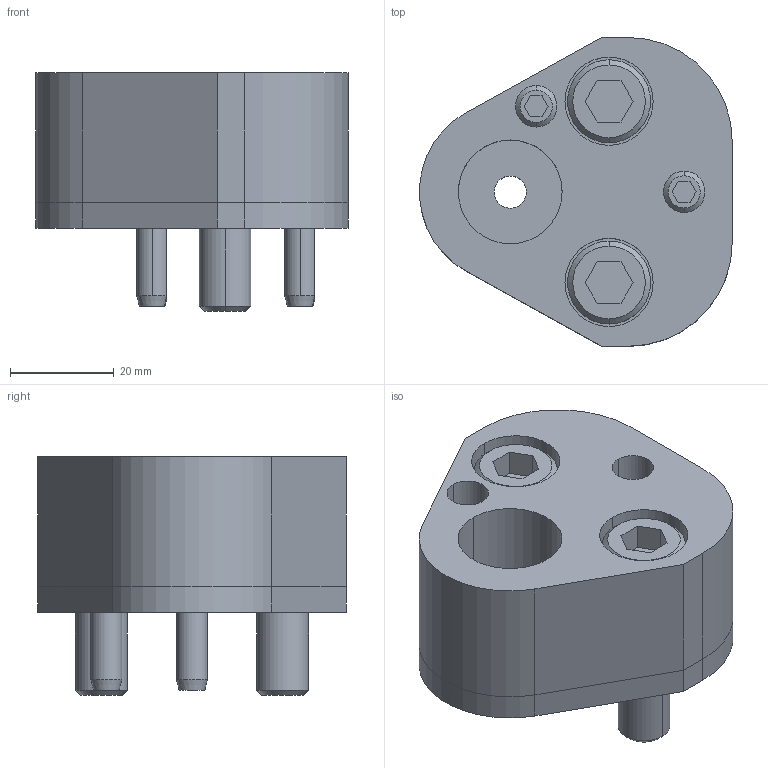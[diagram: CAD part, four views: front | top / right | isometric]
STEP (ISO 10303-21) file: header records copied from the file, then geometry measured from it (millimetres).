
FILE_DESCRIPTION(/* description */ (''),/* implementation_level */ '2;1');
FILE_NAME(/* name */ '3d_25crn-ap20_03130_r00.stp',/* time_stamp */ '2011-01-10T14:17:54+09:00',/* author */ ('MISUMI'),/* organization */ (''),/* preprocessor_version */ 'ST-DEVELOPER v11',/* originating_system */ 'UGS - NX 5.0',/* authorisation */ '');
FILE_SCHEMA (('CONFIG_CONTROL_DESIGN'));
Length unit declared in the file: millimetre
Products named in the file (1): 3d_25crn-ap20_03130_r00
Bounding box: 60.24 x 59.5 x 46 mm (x, y, z)
Volume: 72149.5 mm3; surface area: 26545 mm2
Topology: 8 solids, 8 shells, 155 faces, 348 edges, 224 vertices
Faces by surface type: plane 67, cylinder 62, cone 26
Entity records: 4494 total; most frequent: DIRECTION 804, CARTESIAN_POINT 782, ORIENTED_EDGE 696, EDGE_CURVE 348, AXIS2_PLACEMENT_3D 306, VERTEX_POINT 224, LINE 192, VECTOR 192
